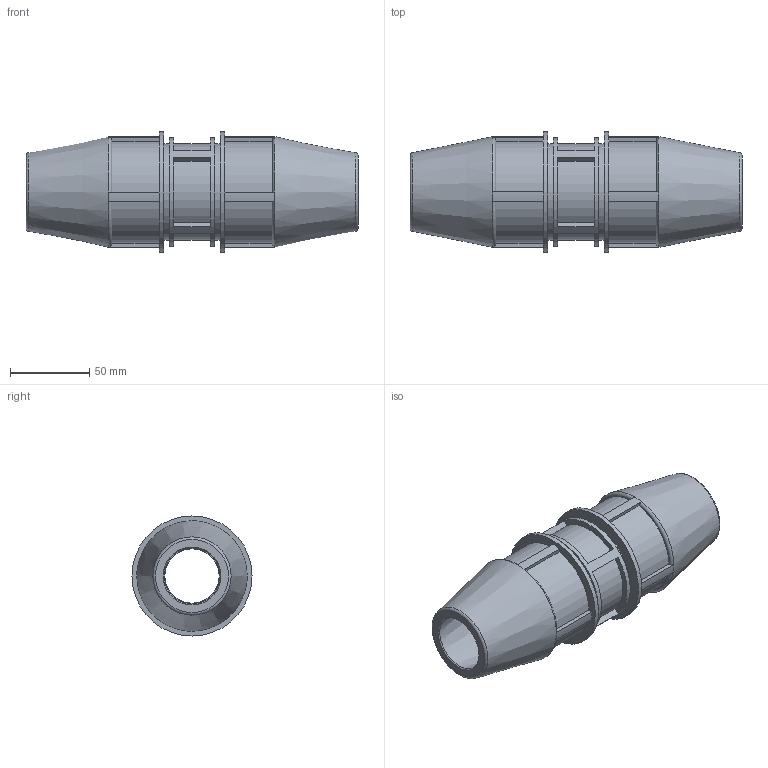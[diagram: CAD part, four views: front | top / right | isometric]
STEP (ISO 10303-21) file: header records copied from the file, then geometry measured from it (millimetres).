
FILE_DESCRIPTION(/* description */ ('PLASSON UNIVERSAL SLIP REPAIR COUPLER 31-35 SERIES 17'),/* implementation_level */ '2;1');
FILE_NAME(/* name */ 'C:\Dropbox\KIMPROJECTS-Inventor\99-16-3568-Processing\S1\17610\176100031035_196100031035.ipt.stp',/* time_stamp */ '2018-02-11T12:57:54+02:00',/* author */ ('KIM'),/* organization */ (''),/* preprocessor_version */ 'ST-DEVELOPER v15.6',/* originating_system */ 'Autodesk Inventor 2015',/* authorisation */ '');
FILE_SCHEMA (('AUTOMOTIVE_DESIGN { 1 0 10303 214 3 1 1 }'));
Length unit declared in the file: millimetre
Products named in the file (1): 176100031035_196100031035
Bounding box: 210 x 76 x 76 mm (x, y, z)
Volume: 419799.9 mm3; surface area: 80425.7 mm2
Topology: 1 solids, 1 shells, 92 faces, 215 edges, 136 vertices
Faces by surface type: plane 50, cylinder 26, torus 10, cone 6
Full cylindrical faces by diameter (mm): 34.3 x1, 60.8 x2, 68.4 x1, 76 x2
Entity records: 2580 total; most frequent: DIRECTION 486, CARTESIAN_POINT 425, ORIENTED_EDGE 396, EDGE_CURVE 198, AXIS2_PLACEMENT_3D 195, VERTEX_POINT 134, EDGE_LOOP 120, CIRCLE 102
